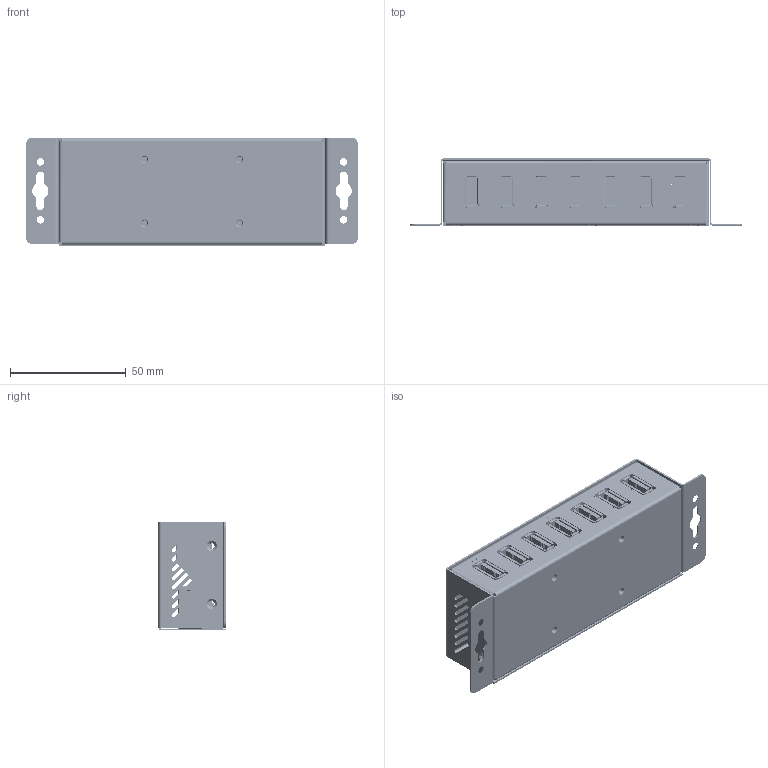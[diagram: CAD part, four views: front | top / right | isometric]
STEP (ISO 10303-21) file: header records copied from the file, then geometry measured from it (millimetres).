
FILE_DESCRIPTION(/* description */ (''),/* implementation_level */ '2;1');
FILE_NAME(/* name */ 'CG-U3MINI7PH_Model3D_JWV1.step',/* time_stamp */ '2023-03-02T11:44:31-05:00',/* author */ (''),/* organization */ (''),/* preprocessor_version */ 'ST-DEVELOPER v19.2',/* originating_system */ 'Autodesk Translation Framework v11.17.0.187',/* authorisation */ '');
FILE_SCHEMA (('AUTOMOTIVE_DESIGN { 1 0 10303 214 3 1 1 }'));
Products named in the file (6): (Unsaved); CG-2X3510S7_3 Bottom V3 (1); CG-2X3510S7_3 Bottom V3; blind standoff_pmm_PEM BSO-M3-6 ZI--N; CG-2X3510S7_3 Top V3; CG-2X3510S7_3
Assembly tree (10 placements, depth 3):
  (Unsaved)
    CG-2X3510S7_3 Bottom V3 (1)
      CG-2X3510S7_3 Bottom V3
      blind standoff_pmm_PEM BSO-M3-6 ZI--N  x6
    CG-2X3510S7_3 Top V3
    CG-2X3510S7_3
Bounding box: 143.4 x 29 x 47.06 mm (x, y, z)
Volume: 37992.8 mm3; surface area: 80297.9 mm2
Topology: 188 solids, 189 shells, 8802 faces, 23882 edges, 15676 vertices
Faces by surface type: plane 6632, cylinder 1518, bspline 492, cone 89, torus 50, sphere 21
Full cylindrical faces by diameter (mm): 0.5 x4, 0.7 x68, 0.92 x4, 1.2 x2, 1.35 x1, 1.5 x1, 1.9 x1, 2 x1, 2.3 x2, 2.4 x1, 2.5 x14, 2.8 x2, 2.85 x2, 3 x6, 3.2 x14, 3.981 x6, 4.1 x8, 4.19 x12, 4.22 x6, 5.8 x7, 6.3 x14, 6.4 x7
Entity records: 317328 total; most frequent: CARTESIAN_POINT 90362, ORIENTED_EDGE 47279, DIRECTION 42218, EDGE_CURVE 23641, LINE 19084, VECTOR 19084, VERTEX_POINT 15546, AXIS2_PLACEMENT_3D 11567
